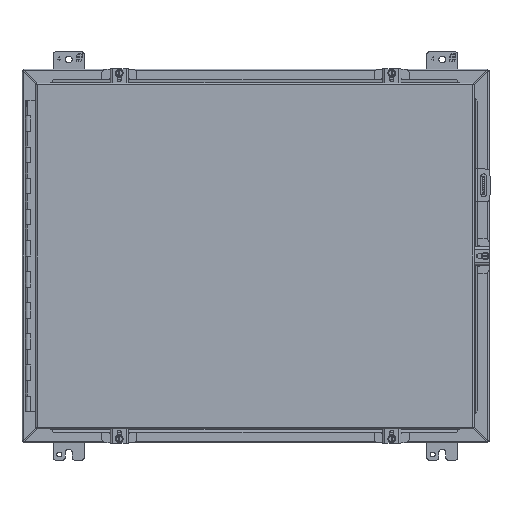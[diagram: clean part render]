
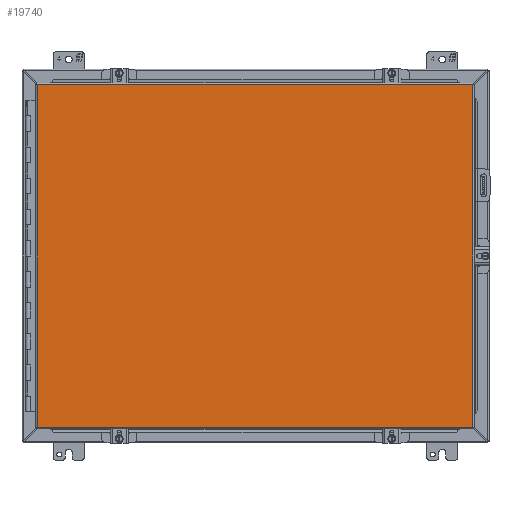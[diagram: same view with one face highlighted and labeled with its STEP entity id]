
A CAD part, front view. The second image highlights one B-rep face of the part: STEP entity #19740.
In plain terms, the highlighted planar face has unit normal (0, -1, 0).
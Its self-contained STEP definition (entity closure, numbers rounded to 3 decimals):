
#1320=PLANE('',#21250);
#2347=LINE('',#28700,#4172);
#2348=LINE('',#28703,#4173);
#2349=LINE('',#28705,#4174);
#2350=LINE('',#28707,#4175);
#4172=VECTOR('',#23716,1000.);
#4173=VECTOR('',#23717,1000.);
#4174=VECTOR('',#23718,1000.);
#4175=VECTOR('',#23719,1000.);
#7139=ORIENTED_EDGE('',*,*,#12325,.T.);
#7140=ORIENTED_EDGE('',*,*,#12326,.T.);
#7141=ORIENTED_EDGE('',*,*,#12327,.T.);
#7142=ORIENTED_EDGE('',*,*,#12328,.T.);
#12325=EDGE_CURVE('',#15026,#15027,#2347,.T.);
#12326=EDGE_CURVE('',#15027,#15028,#2348,.T.);
#12327=EDGE_CURVE('',#15028,#15029,#2349,.T.);
#12328=EDGE_CURVE('',#15029,#15026,#2350,.T.);
#15026=VERTEX_POINT('',#28701);
#15027=VERTEX_POINT('',#28702);
#15028=VERTEX_POINT('',#28704);
#15029=VERTEX_POINT('',#28706);
#17200=EDGE_LOOP('',(#7139,#7140,#7141,#7142));
#18471=FACE_BOUND('',#17200,.T.);
#19740=ADVANCED_FACE('',(#18471),#1320,.T.);
#21250=AXIS2_PLACEMENT_3D('',#28699,#23714,#23715);
#23714=DIRECTION('',(0.,-1.,0.));
#23715=DIRECTION('',(0.,0.,-1.));
#23716=DIRECTION('',(0.,0.,-1.));
#23717=DIRECTION('',(1.,0.,0.));
#23718=DIRECTION('',(0.,0.,1.));
#23719=DIRECTION('',(-1.,0.,0.));
#28699=CARTESIAN_POINT('',(-355.244,0.,-279.26));
#28700=CARTESIAN_POINT('',(-355.244,0.,279.26));
#28701=CARTESIAN_POINT('',(-355.244,0.,279.26));
#28702=CARTESIAN_POINT('',(-355.244,0.,-279.26));
#28703=CARTESIAN_POINT('',(-355.244,0.,-279.26));
#28704=CARTESIAN_POINT('',(355.244,0.,-279.26));
#28705=CARTESIAN_POINT('',(355.244,0.,-279.26));
#28706=CARTESIAN_POINT('',(355.244,0.,279.26));
#28707=CARTESIAN_POINT('',(355.244,0.,279.26));
